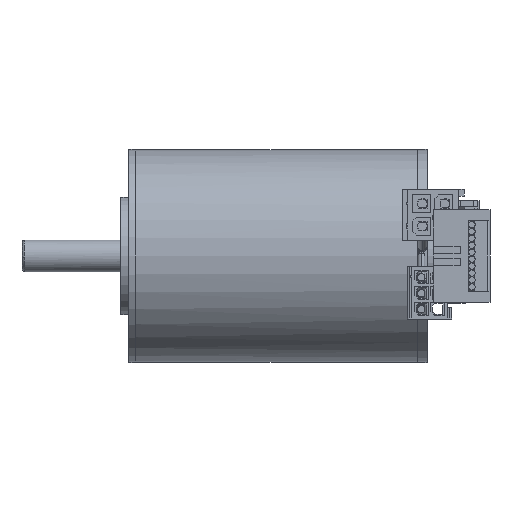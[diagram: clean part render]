
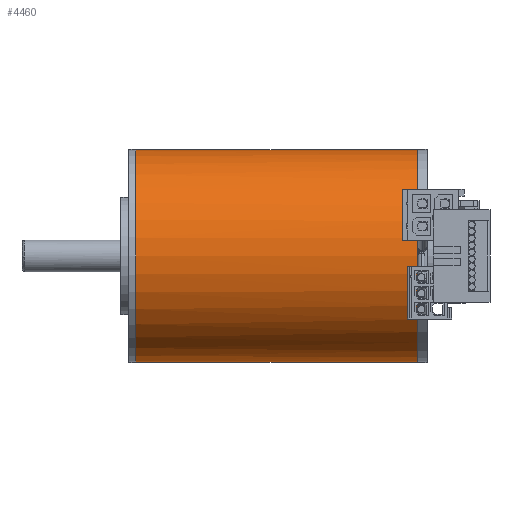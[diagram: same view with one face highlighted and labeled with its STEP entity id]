
A CAD part, front view. The second image highlights one B-rep face of the part: STEP entity #4460.
In plain terms, the highlighted cylindrical face has radius 19.95 mm (diameter 39.9 mm), a partial arc.
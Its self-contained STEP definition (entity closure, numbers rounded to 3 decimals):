
#233 = CARTESIAN_POINT ( 'NONE',  ( 54.2, 0., 0. ) ) ;
#478 = ORIENTED_EDGE ( 'NONE', *, *, #11241, .T. ) ;
#1168 = CARTESIAN_POINT ( 'NONE',  ( 56.845, 0., -19.95 ) ) ;
#2366 = CARTESIAN_POINT ( 'NONE',  ( 1.3, 0., 0. ) ) ;
#2502 = ORIENTED_EDGE ( 'NONE', *, *, #16373, .T. ) ;
#2810 = VERTEX_POINT ( 'NONE', #16874 ) ;
#3114 = CIRCLE ( 'NONE', #8771, 19.95 ) ;
#3352 = CYLINDRICAL_SURFACE ( 'NONE', #29022, 19.95 ) ;
#4437 = CARTESIAN_POINT ( 'NONE',  ( 56.845, 0., 0. ) ) ;
#4460 = ADVANCED_FACE ( 'NONE', ( #4472 ), #3352, .T. ) ;
#4472 = FACE_OUTER_BOUND ( 'NONE', #18592, .T. ) ;
#4534 = DIRECTION ( 'NONE',  ( 0., 0., 1. ) ) ;
#4876 = DIRECTION ( 'NONE',  ( 1., 0., 0. ) ) ;
#5865 = CARTESIAN_POINT ( 'NONE',  ( 54.2, 0., -19.95 ) ) ;
#6084 = CARTESIAN_POINT ( 'NONE',  ( 54.2, 0., 19.95 ) ) ;
#6916 = VECTOR ( 'NONE', #8163, 1000. ) ;
#7110 = CARTESIAN_POINT ( 'NONE',  ( 54.2, 0., 0. ) ) ;
#7422 = CARTESIAN_POINT ( 'NONE',  ( 1.3, 0., -19.95 ) ) ;
#7689 = VERTEX_POINT ( 'NONE', #26705 ) ;
#8163 = DIRECTION ( 'NONE',  ( -1., 0., 0. ) ) ;
#8270 = VECTOR ( 'NONE', #21278, 1000. ) ;
#8771 = AXIS2_PLACEMENT_3D ( 'NONE', #9052, #29441, #20425 ) ;
#9052 = CARTESIAN_POINT ( 'NONE',  ( 54.2, 0., 0. ) ) ;
#9089 = LINE ( 'NONE', #1168, #6916 ) ;
#9130 = CIRCLE ( 'NONE', #12059, 19.95 ) ;
#9604 = VERTEX_POINT ( 'NONE', #18061 ) ;
#10881 = ORIENTED_EDGE ( 'NONE', *, *, #29011, .T. ) ;
#11241 = EDGE_CURVE ( 'NONE', #2810, #9604, #24079, .T. ) ;
#11500 = VERTEX_POINT ( 'NONE', #5865 ) ;
#12059 = AXIS2_PLACEMENT_3D ( 'NONE', #2366, #4876, #14063 ) ;
#14044 = DIRECTION ( 'NONE',  ( 0., 0., 1. ) ) ;
#14063 = DIRECTION ( 'NONE',  ( 0., 0., 1. ) ) ;
#16373 = EDGE_CURVE ( 'NONE', #7689, #22718, #9130, .T. ) ;
#16474 = ORIENTED_EDGE ( 'NONE', *, *, #20799, .T. ) ;
#16527 = ORIENTED_EDGE ( 'NONE', *, *, #17307, .T. ) ;
#16874 = CARTESIAN_POINT ( 'NONE',  ( 54.2, -18.844, -6.55 ) ) ;
#17307 = EDGE_CURVE ( 'NONE', #9604, #17662, #19854, .T. ) ;
#17662 = VERTEX_POINT ( 'NONE', #6084 ) ;
#18061 = CARTESIAN_POINT ( 'NONE',  ( 54.2, -18.844, 6.55 ) ) ;
#18592 = EDGE_LOOP ( 'NONE', ( #24404, #10881, #478, #16527, #16474, #2502 ) ) ;
#19466 = EDGE_CURVE ( 'NONE', #11500, #22718, #9089, .T. ) ;
#19854 = CIRCLE ( 'NONE', #23682, 19.95 ) ;
#20425 = DIRECTION ( 'NONE',  ( 0., 0., 1. ) ) ;
#20799 = EDGE_CURVE ( 'NONE', #17662, #7689, #24867, .T. ) ;
#20910 = DIRECTION ( 'NONE',  ( 0., 0., 1. ) ) ;
#21278 = DIRECTION ( 'NONE',  ( -1., 0., 0. ) ) ;
#21482 = CARTESIAN_POINT ( 'NONE',  ( 56.845, 0., 19.95 ) ) ;
#22718 = VERTEX_POINT ( 'NONE', #7422 ) ;
#23356 = DIRECTION ( 'NONE',  ( -1., 0., 0. ) ) ;
#23682 = AXIS2_PLACEMENT_3D ( 'NONE', #233, #27719, #20910 ) ;
#24079 = CIRCLE ( 'NONE', #25104, 19.95 ) ;
#24404 = ORIENTED_EDGE ( 'NONE', *, *, #19466, .F. ) ;
#24867 = LINE ( 'NONE', #21482, #8270 ) ;
#25104 = AXIS2_PLACEMENT_3D ( 'NONE', #7110, #23356, #14044 ) ;
#25261 = DIRECTION ( 'NONE',  ( -1., 0., 0. ) ) ;
#26705 = CARTESIAN_POINT ( 'NONE',  ( 1.3, 0., 19.95 ) ) ;
#27719 = DIRECTION ( 'NONE',  ( -1., 0., 0. ) ) ;
#29011 = EDGE_CURVE ( 'NONE', #11500, #2810, #3114, .T. ) ;
#29022 = AXIS2_PLACEMENT_3D ( 'NONE', #4437, #25261, #4534 ) ;
#29441 = DIRECTION ( 'NONE',  ( -1., 0., 0. ) ) ;
